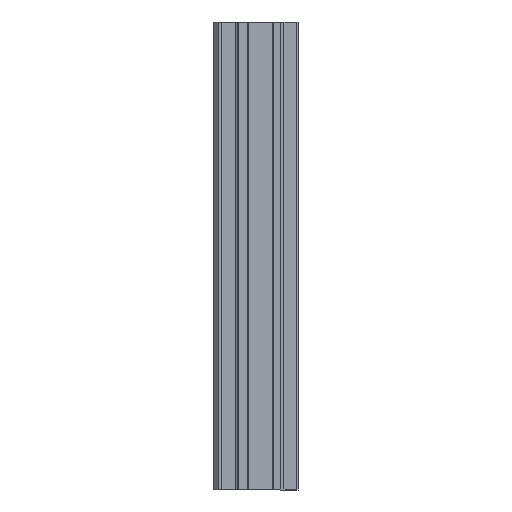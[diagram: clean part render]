
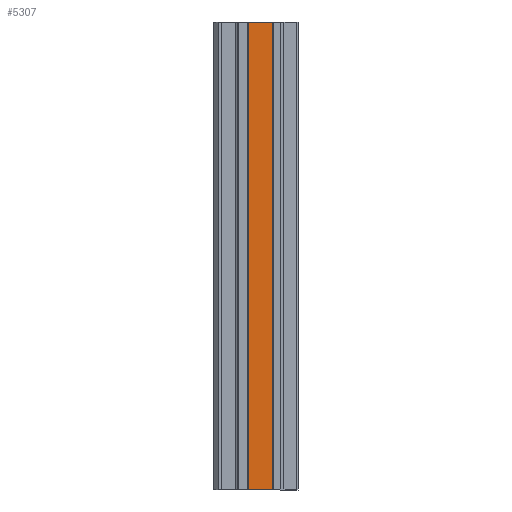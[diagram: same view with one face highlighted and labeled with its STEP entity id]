
A CAD part, left-side view. The second image highlights one B-rep face of the part: STEP entity #5307.
In plain terms, the highlighted planar face has unit normal (-1, 0, 0).
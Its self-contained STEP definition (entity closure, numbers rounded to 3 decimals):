
#87=PLANE('',#5638);
#323=FACE_OUTER_BOUND('',#572,.T.);
#572=EDGE_LOOP('',(#3717,#3718,#3719,#3720));
#870=LINE('',#7191,#1565);
#935=LINE('',#7399,#1630);
#950=LINE('',#7428,#1645);
#952=LINE('',#7433,#1647);
#1565=VECTOR('',#5897,10.);
#1630=VECTOR('',#6046,10.);
#1645=VECTOR('',#6085,10.);
#1647=VECTOR('',#6093,10.);
#2309=VERTEX_POINT('',#7188);
#2310=VERTEX_POINT('',#7190);
#2410=VERTEX_POINT('',#7396);
#2411=VERTEX_POINT('',#7398);
#2805=EDGE_CURVE('',#2310,#2309,#870,.T.);
#2909=EDGE_CURVE('',#2410,#2411,#935,.T.);
#2926=EDGE_CURVE('',#2411,#2309,#950,.T.);
#2928=EDGE_CURVE('',#2310,#2410,#952,.T.);
#3717=ORIENTED_EDGE('',*,*,#2926,.F.);
#3718=ORIENTED_EDGE('',*,*,#2909,.F.);
#3719=ORIENTED_EDGE('',*,*,#2928,.F.);
#3720=ORIENTED_EDGE('',*,*,#2805,.T.);
#5307=ADVANCED_FACE('',(#323),#87,.T.);
#5638=AXIS2_PLACEMENT_3D('',#7434,#6094,#6095);
#5897=DIRECTION('',(0.,-1.,0.));
#6046=DIRECTION('',(0.,-1.,0.));
#6085=DIRECTION('',(0.,0.,-1.));
#6093=DIRECTION('',(0.,0.,1.));
#6094=DIRECTION('center_axis',(-1.,0.,0.));
#6095=DIRECTION('ref_axis',(0.,-1.,0.));
#7188=CARTESIAN_POINT('',(-6.591,1.3,0.));
#7190=CARTESIAN_POINT('',(-6.591,9.1,0.));
#7191=CARTESIAN_POINT('',(-6.591,14.299,0.));
#7396=CARTESIAN_POINT('',(-6.591,9.1,100.));
#7398=CARTESIAN_POINT('',(-6.591,1.3,100.));
#7399=CARTESIAN_POINT('',(-6.591,14.299,100.));
#7428=CARTESIAN_POINT('',(-6.591,1.3,0.));
#7433=CARTESIAN_POINT('',(-6.591,9.1,0.));
#7434=CARTESIAN_POINT('Origin',(-6.591,2.342,0.));
